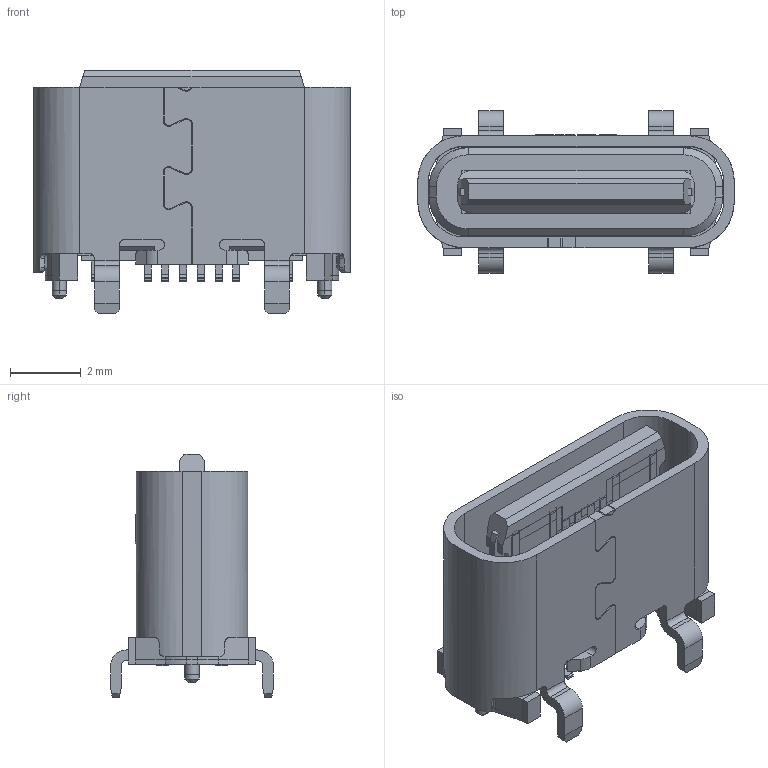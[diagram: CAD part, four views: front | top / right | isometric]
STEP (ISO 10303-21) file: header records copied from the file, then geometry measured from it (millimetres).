
FILE_DESCRIPTION (( 'STEP AP203' ), '1' );
FILE_NAME ('U5276-16PNW5.93L.STEP', '2026-09-22T02:23:45', ( '' ), ( '' ), 'SwSTEP 2.0', 'SolidWorks 2020', '' );
FILE_SCHEMA (( 'CONFIG_CONTROL_DESIGN' ));
Length unit declared in the file: millimetre
Products named in the file (15): 6_5H0006_____ ____.STEP.STEP; TC 16P 6.5 ____________.STEP.STEP; TC 16P 6.5H __________-0.STEP.STEP; 6_5HMD0003_ASM_27_ASM_1_ASM_2_ASM.STEP.STEP; 6_5HMD0002_30_ASM_1_ASM_2_ASM_1.STEP.STEP; U5276-16PNW5.93L; ____TC 16P  ____6.5________0.95.STEP.STEP; TC 16P 6.5H ________ ______.STEP-0.STEP; 6_400_____.STEP.STEP; 6_5HMD__________.STEP.STEP; TC 16P 6.5H ________ ______.STEP.STEP; 6_40001_ASM_13_ASM_1_ASM_2_ASM_1-1.STEP.STEP; 6_5H MD003______.STEP.STEP; TC 16P 6.5 ____________-1.STEP.STEP; TC 16P 6.5H __________.STEP.STEP
Assembly tree (14 placements, depth 6):
  U5276-16PNW5.93L
    ____TC 16P  ____6.5________0.95.STEP.STEP
      TC 16P 6.5 ____________.STEP.STEP
        TC 16P 6.5H __________.STEP.STEP
        TC 16P 6.5H ________ ______.STEP.STEP
      TC 16P 6.5 ____________-1.STEP.STEP
        TC 16P 6.5H __________-0.STEP.STEP
        TC 16P 6.5H ________ ______.STEP-0.STEP
      6_5HMD__________.STEP.STEP
        6_5HMD0002_30_ASM_1_ASM_2_ASM_1.STEP.STEP
          6_5H MD003______.STEP.STEP
        6_5HMD0003_ASM_27_ASM_1_ASM_2_ASM.STEP.STEP
          6_40001_ASM_13_ASM_1_ASM_2_ASM_1-1.STEP.STEP
            6_400_____.STEP.STEP
      6_5H0006_____ ____.STEP.STEP
Bounding box: 8.94 x 4.6 x 6.88 mm (x, y, z)
Volume: 56.4 mm3; surface area: 665 mm2
Topology: 21 solids, 26 shells, 1690 faces, 4901 edges, 3225 vertices
Faces by surface type: plane 1253, cylinder 375, cone 32, bspline 30
Entity records: 60075 total; most frequent: CARTESIAN_POINT 16102, ORIENTED_EDGE 9780, DIRECTION 7451, EDGE_CURVE 4897, VERTEX_POINT 3225, LINE 2887, VECTOR 2887, AXIS2_PLACEMENT_3D 2282
